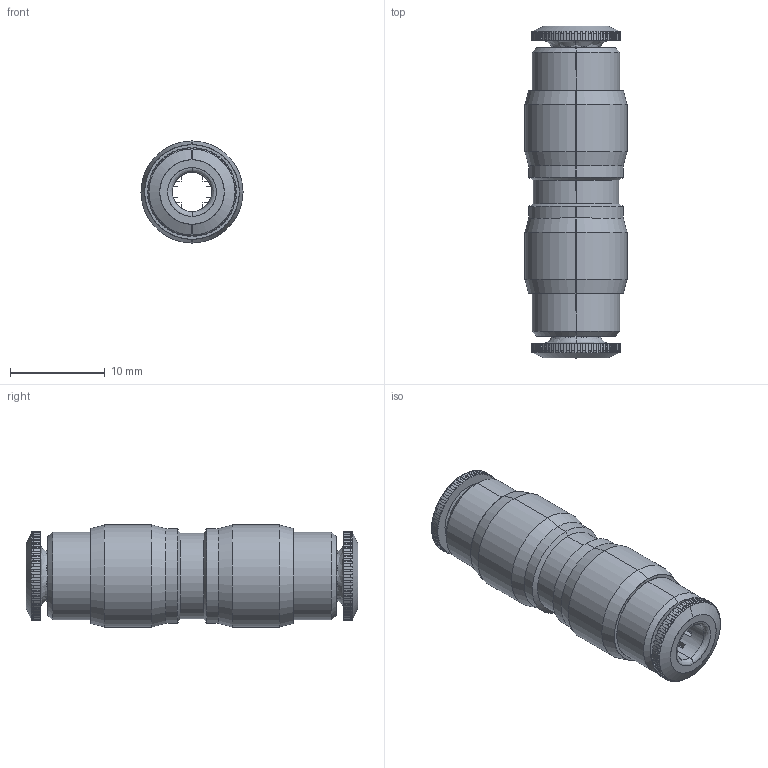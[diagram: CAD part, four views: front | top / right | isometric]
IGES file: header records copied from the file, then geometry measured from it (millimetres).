
Start section: SolidWorks IGES file using analytic representation for surfaces
Global section: file name: K:\Disegni Esecutivi\SERIE 58000\ASSIEMI\58040\58040_iges\5804000001B.IGS; native system: SolidWorks 2015; preprocessor: SolidWorks 2015; author: cad06; date: 160302.154655; units: millimetre
Bounding box: 10.8 x 35.1 x 10.8 mm (x, y, z)
Surface area: 1831.1 mm2 (no closed solid volume)
Topology: 0 solids, 0 shells, 432 faces, 3822 edges, 3822 vertices
Faces by surface type: bspline 272, revolution 160
